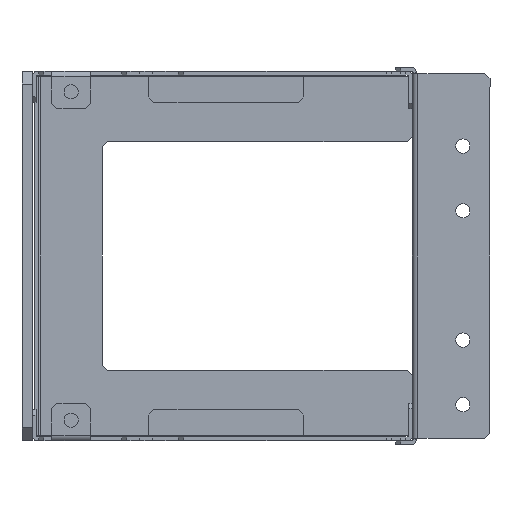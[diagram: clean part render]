
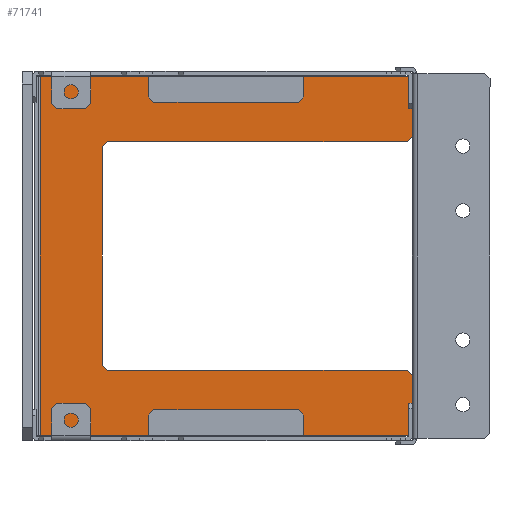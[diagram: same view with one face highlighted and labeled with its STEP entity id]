
A CAD part, left-side view. The second image highlights one B-rep face of the part: STEP entity #71741.
In plain terms, the highlighted planar face has unit normal (-1, 0, 0) as drawn and (0, 0, -1) by its records, which use the part's own axes.
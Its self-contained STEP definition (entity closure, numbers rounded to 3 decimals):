
#70711=CARTESIAN_POINT(' ',(-73.9,69.25,-1.5));
#70716=DIRECTION(' ',(0.,-1.,0.));
#70721=VECTOR(' ',#70716,1.);
#70726=LINE('',#70711,#70721);
#70731=CARTESIAN_POINT(' ',(-73.9,69.25,-1.5));
#70732=VERTEX_POINT(' ',#70731);
#70736=CARTESIAN_POINT(' ',(-73.9,-69.25,-1.5));
#70737=VERTEX_POINT(' ',#70736);
#70741=EDGE_CURVE(' ',#70732,#70737,#70726,.T.);
#71251=DIRECTION(' ',(0.,0.,-1.));
#71256=CARTESIAN_POINT(' ',(70.,-69.25,-1.5));
#71261=DIRECTION(' ',(-1.,0.,-0.));
#71266=AXIS2_PLACEMENT_3D(' ',#71256,#71251,#71261);
#71271=PLANE('NONE',#71266);
#71276=CARTESIAN_POINT(' ',(70.,46.25,-1.5));
#71281=DIRECTION(' ',(-0.707,-0.707,0.));
#71286=VECTOR(' ',#71281,1.);
#71291=LINE('',#71276,#71286);
#71296=CARTESIAN_POINT(' ',(70.,46.25,-1.5));
#71297=VERTEX_POINT(' ',#71296);
#71301=CARTESIAN_POINT(' ',(68.,44.25,-1.5));
#71302=VERTEX_POINT(' ',#71301);
#71306=EDGE_CURVE(' ',#71297,#71302,#71291,.T.);
#71311=ORIENTED_EDGE(' ',*,*,#71306,.T.);
#71316=CARTESIAN_POINT(' ',(-48.,44.25,-1.5));
#71321=DIRECTION(' ',(1.,0.,0.));
#71326=VECTOR(' ',#71321,1.);
#71331=LINE('',#71316,#71326);
#71336=CARTESIAN_POINT(' ',(-48.,44.25,-1.5));
#71337=VERTEX_POINT(' ',#71336);
#71341=EDGE_CURVE(' ',#71337,#71302,#71331,.T.);
#71346=ORIENTED_EDGE(' ',*,*,#71341,.F.);
#71351=CARTESIAN_POINT(' ',(-50.,42.25,-1.5));
#71356=DIRECTION(' ',(0.707,0.707,0.));
#71361=VECTOR(' ',#71356,1.);
#71366=LINE('',#71351,#71361);
#71371=CARTESIAN_POINT(' ',(-50.,42.25,-1.5));
#71372=VERTEX_POINT(' ',#71371);
#71376=EDGE_CURVE(' ',#71372,#71337,#71366,.T.);
#71381=ORIENTED_EDGE(' ',*,*,#71376,.F.);
#71386=CARTESIAN_POINT(' ',(-50.,-42.25,-1.5));
#71391=DIRECTION(' ',(0.,1.,0.));
#71396=VECTOR(' ',#71391,1.);
#71401=LINE('',#71386,#71396);
#71406=CARTESIAN_POINT(' ',(-50.,-42.25,-1.5));
#71407=VERTEX_POINT(' ',#71406);
#71411=EDGE_CURVE(' ',#71407,#71372,#71401,.T.);
#71416=ORIENTED_EDGE(' ',*,*,#71411,.F.);
#71421=CARTESIAN_POINT(' ',(-48.,-44.25,-1.5));
#71426=DIRECTION(' ',(-0.707,0.707,0.));
#71431=VECTOR(' ',#71426,1.);
#71436=LINE('',#71421,#71431);
#71441=CARTESIAN_POINT(' ',(-48.,-44.25,-1.5));
#71442=VERTEX_POINT(' ',#71441);
#71446=EDGE_CURVE(' ',#71442,#71407,#71436,.T.);
#71451=ORIENTED_EDGE(' ',*,*,#71446,.F.);
#71456=CARTESIAN_POINT(' ',(68.,-44.25,-1.5));
#71461=DIRECTION(' ',(-1.,0.,0.));
#71466=VECTOR(' ',#71461,1.);
#71471=LINE('',#71456,#71466);
#71476=CARTESIAN_POINT(' ',(68.,-44.25,-1.5));
#71477=VERTEX_POINT(' ',#71476);
#71481=EDGE_CURVE(' ',#71477,#71442,#71471,.T.);
#71486=ORIENTED_EDGE(' ',*,*,#71481,.F.);
#71491=CARTESIAN_POINT(' ',(68.,-44.25,-1.5));
#71496=DIRECTION(' ',(0.707,-0.707,0.));
#71501=VECTOR(' ',#71496,1.);
#71506=LINE('',#71491,#71501);
#71511=CARTESIAN_POINT(' ',(70.,-46.25,-1.5));
#71512=VERTEX_POINT(' ',#71511);
#71516=EDGE_CURVE(' ',#71477,#71512,#71506,.T.);
#71521=ORIENTED_EDGE(' ',*,*,#71516,.T.);
#71526=CARTESIAN_POINT(' ',(70.,-67.25,-1.5));
#71531=DIRECTION(' ',(0.,1.,0.));
#71536=VECTOR(' ',#71531,1.);
#71541=LINE('',#71526,#71536);
#71546=CARTESIAN_POINT(' ',(70.,-67.25,-1.5));
#71547=VERTEX_POINT(' ',#71546);
#71551=EDGE_CURVE(' ',#71547,#71512,#71541,.T.);
#71556=ORIENTED_EDGE(' ',*,*,#71551,.F.);
#71561=CARTESIAN_POINT(' ',(70.,-67.25,-1.5));
#71566=DIRECTION(' ',(-0.707,-0.707,0.));
#71571=VECTOR(' ',#71566,1.);
#71576=LINE('',#71561,#71571);
#71581=CARTESIAN_POINT(' ',(68.,-69.25,-1.5));
#71582=VERTEX_POINT(' ',#71581);
#71586=EDGE_CURVE(' ',#71547,#71582,#71576,.T.);
#71591=ORIENTED_EDGE(' ',*,*,#71586,.T.);
#71596=CARTESIAN_POINT(' ',(-73.9,-69.25,-1.5));
#71601=DIRECTION(' ',(1.,0.,0.));
#71606=VECTOR(' ',#71601,1.);
#71611=LINE('',#71596,#71606);
#71616=EDGE_CURVE(' ',#70737,#71582,#71611,.T.);
#71621=ORIENTED_EDGE(' ',*,*,#71616,.F.);
#71626=ORIENTED_EDGE(' ',*,*,#70741,.F.);
#71631=CARTESIAN_POINT(' ',(68.,69.25,-1.5));
#71636=DIRECTION(' ',(-1.,0.,0.));
#71641=VECTOR(' ',#71636,1.);
#71646=LINE('',#71631,#71641);
#71651=CARTESIAN_POINT(' ',(68.,69.25,-1.5));
#71652=VERTEX_POINT(' ',#71651);
#71656=EDGE_CURVE(' ',#71652,#70732,#71646,.T.);
#71661=ORIENTED_EDGE(' ',*,*,#71656,.F.);
#71666=CARTESIAN_POINT(' ',(68.,69.25,-1.5));
#71671=DIRECTION(' ',(0.707,-0.707,0.));
#71676=VECTOR(' ',#71671,1.);
#71681=LINE('',#71666,#71676);
#71686=CARTESIAN_POINT(' ',(70.,67.25,-1.5));
#71687=VERTEX_POINT(' ',#71686);
#71691=EDGE_CURVE(' ',#71652,#71687,#71681,.T.);
#71696=ORIENTED_EDGE(' ',*,*,#71691,.T.);
#71701=CARTESIAN_POINT(' ',(70.,46.25,-1.5));
#71706=DIRECTION(' ',(0.,1.,0.));
#71711=VECTOR(' ',#71706,1.);
#71716=LINE('',#71701,#71711);
#71721=EDGE_CURVE(' ',#71297,#71687,#71716,.T.);
#71726=ORIENTED_EDGE(' ',*,*,#71721,.F.);
#71731=EDGE_LOOP(' ',(#71311,#71346,#71381,#71416,#71451,#71486,#71521,#71556,#71591,#71621,#71626,#71661,#71696,#71726));
#71736=FACE_OUTER_BOUND(' ',#71731,.T.);
#71741=ADVANCED_FACE('NONE',(#71736),#71271,.T.);
